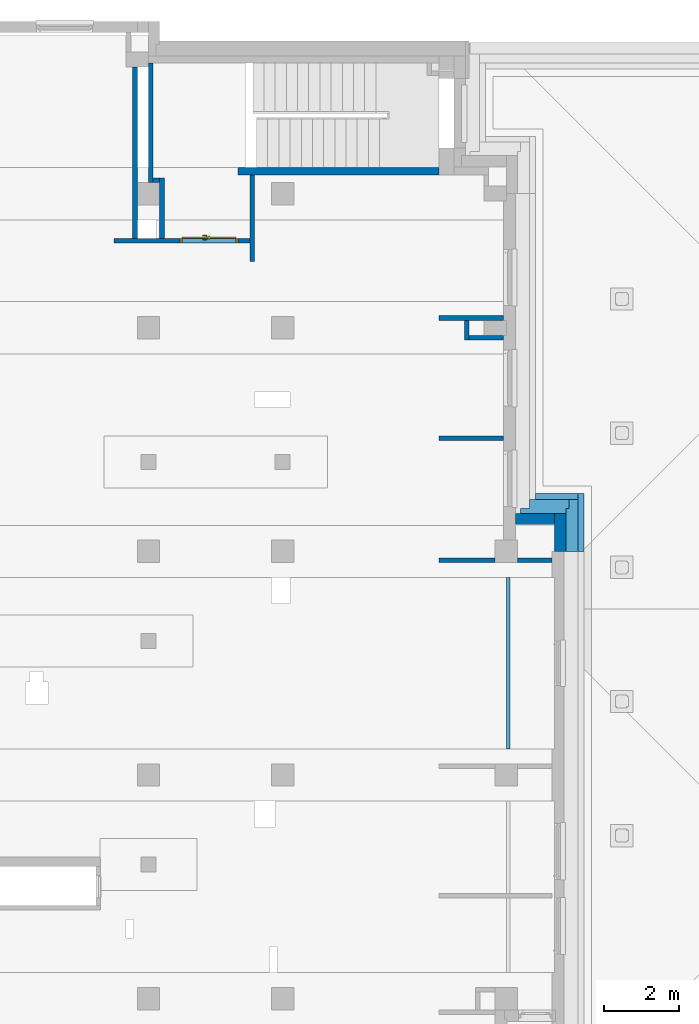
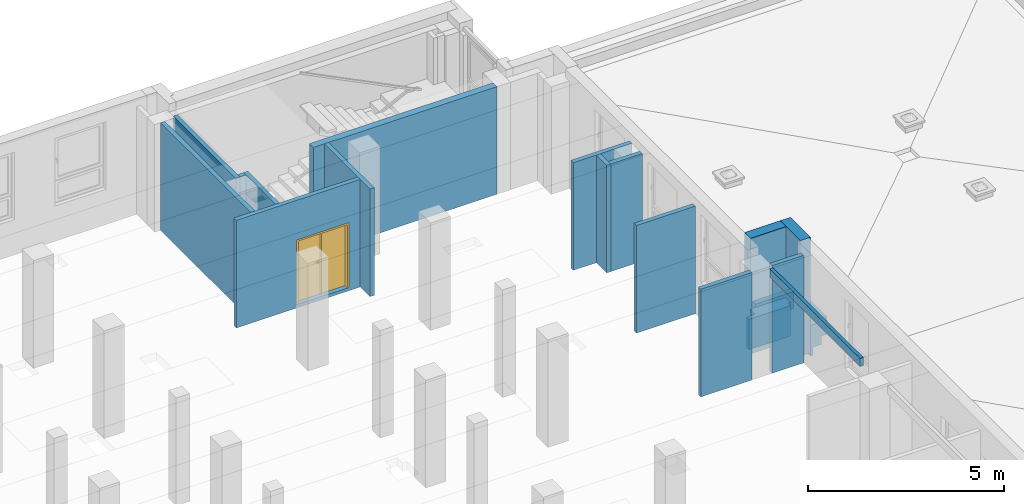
# One storey, part 28 of 50: 18 walls, 1 door, 1 opening.
"""IFC4 building model written with IfcOpenShell, lengths in metres."""

from ifc_helpers import new_model, entity, si_unit, converted_unit, derived_unit, frame, frame_2d, origin, origin_with_axes, place, context, subcontext, project, spatial, polyline, rectangle, outline, extrude, clip, bounded_halfspace, closed_shell, open_shell, surface_model, source, transform, mapped, material, layer, layer_set, layer_usage, type_object, element, fill, save


model = new_model("IFC4")

# Units and contexts
model_context = context("Model", 3, precision=1e-05, world=origin())
body_context = subcontext(model_context, "Body", "Model", "MODEL_VIEW")
ifc_project = project(units=[si_unit("LENGTHUNIT", "METRE"), si_unit("AREAUNIT", "SQUARE_METRE"), si_unit("VOLUMEUNIT", "CUBIC_METRE"), si_unit("MASSUNIT", "GRAM", prefix="KILO"), converted_unit("PLANEANGLEUNIT", "DEGREE", entity("IfcPlaneAngleMeasure", 0.0174532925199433), si_unit("PLANEANGLEUNIT", "RADIAN"), dimensions=[0, 0, 0, 0, 0, 0, 0]), derived_unit("THERMALTRANSMITTANCEUNIT", [(si_unit("POWERUNIT", "WATT"), 1), (si_unit("THERMODYNAMICTEMPERATUREUNIT", "KELVIN"), -1), (si_unit("LENGTHUNIT", "METRE"), -2)]), derived_unit("VOLUMETRICFLOWRATEUNIT", [(si_unit("LENGTHUNIT", "METRE"), 3), (converted_unit("TIMEUNIT", "hour", entity("IfcTimeMeasure", 3600.0), si_unit("TIMEUNIT", "SECOND"), dimensions=[0, 0, 1, 0, 0, 0, 0]), -1), (si_unit("LENGTHUNIT", "METRE"), -1)])], contexts=[model_context])

# Site, building, storey
site_placement = place(None, origin())
site = spatial("IfcSite", under=ifc_project, at=site_placement, Name="3. ASŘ", CompositionType="ELEMENT")
building_placement = place(site_placement, origin())
building = spatial("IfcBuilding", under=site, at=building_placement, Name="Pavilon C", CompositionType="ELEMENT")
storey_placement = place(building_placement, frame((0.0, 0.0, 3.6)))
storey = spatial("IfcBuildingStorey", under=building, at=storey_placement, Name="Půdorys 2.NP", CompositionType="ELEMENT", Elevation=3.6)

# Walls
ifc_material_1 = material(Name="ZELEZOBETONOVÁ KCE")
ifc_layer_1 = layer(ifc_material_1, 0.3)
ifc_layer_set_1 = layer_set([ifc_layer_1])
ifc_layer_usage_1 = layer_usage(ifc_layer_set_1, "AXIS2", "POSITIVE", 0.0)
wall_1_placement = place(storey_placement, frame((51.25, 20.22, -0.1), z_axis=(0.0, 0.0, 1.0), x_axis=(-1.0, 0.0, 0.0)))
element("IfcWall", 1, at=wall_1_placement, inside=storey, material=ifc_layer_usage_1, Name="ZELEZOBETONOVÁ KCE", context=body_context, shape_type="SweptSolid", body=[
    extrude(rectangle(XDim=1.05, YDim=0.3, at=frame_2d((0.525, 0.15), x_axis=(1.0, 0.0))), origin_with_axes(), (0.0, 0.0, 1.0), 3.6),
])
ifc_material_2 = material(Name="ZELEZOBETONOVÁ KCE")
ifc_layer_2 = layer(ifc_material_2, 0.2)
ifc_layer_set_2 = layer_set([ifc_layer_2])
ifc_layer_usage_2 = layer_usage(ifc_layer_set_2, "AXIS2", "POSITIVE", 0.0)
wall_2_placement = place(storey_placement, frame((48.15, 29.5, -0.1), z_axis=(0.0, 0.0, 1.0), x_axis=(-1.0, 0.0, 0.0)))
element("IfcWall", 2, at=wall_2_placement, inside=storey, material=ifc_layer_usage_2, Name="ZELEZOBETONOVÁ KCE", context=body_context, shape_type="SweptSolid", body=[
    extrude(rectangle(XDim=5.4, YDim=0.2, at=frame_2d((2.7, 0.1), x_axis=(1.0, 0.0))), origin_with_axes(), (0.0, 0.0, 1.0), 3.35),
])

# Wall, opening, door
ifc_material_3 = material(Name="ZDIVO Z CDm")
ifc_layer_3 = layer(ifc_material_3, 0.125)
ifc_layer_set_3 = layer_set([ifc_layer_3])
ifc_layer_usage_3 = layer_usage(ifc_layer_set_3, "AXIS2", "POSITIVE", 0.0)
wall_3_placement = place(storey_placement, frame((43.075, 27.6, -0.1), z_axis=(0.0, 0.0, 1.0), x_axis=(-1.0, 0.0, 0.0)))
wall_3 = element("IfcWall", 3, at=wall_3_placement, inside=storey, material=ifc_layer_usage_3, Name="ZDIVO Z CDm", context=body_context, shape_type="SweptSolid", body=[
    extrude(rectangle(XDim=3.65, YDim=0.125, at=frame_2d((1.825, 0.0625), x_axis=(1.0, 0.0))), origin_with_axes(), (0.0, 0.0, 1.0), 3.35),
])
opening_placement = place(wall_3_placement, frame((0.325, 0.0, 0.1), z_axis=(0.0, 1.0, 0.0), x_axis=(0.0, 0.0, 1.0)))
opening = element("IfcOpeningElement", 4, at=opening_placement, cuts=wall_3, Name="Dveřní otvor", ObjectType="Opening", context=body_context, shape_type="SweptSolid", body=[
    extrude(outline(polyline([(0.0, 1.55), (2.02, 1.55), (2.02, 0.0), (0.0, 0.0), (0.0, 1.55)])), origin_with_axes(), (0.0, 0.0, 1.0), 0.125),
])
door_type = type_object("IfcDoorType", Name="D501", OperationType="NOTDEFINED", ParameterTakesPrecedence=False, PredefinedType="DOOR")
shared_shape = source(origin_with_axes(), body_context, "Body", "SurfaceModel", [
    surface_model("IfcShellBasedSurfaceModel", [(0.0, 0.125, 2.02), (0.0, 0.125, -7.65404249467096e-18), (0.05, 0.125, -7.65404249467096e-18), (0.05, 0.125, 2.02), (0.0, 0.0, 7.65404249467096e-18), (0.0, 2.41584530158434e-16, 2.02), (0.05, 2.41584530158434e-16, 2.02), (0.05, 0.0, 7.65404249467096e-18)], [closed_shell([[[0, 1, 2, 3]], [[4, 5, 6, 7]], [[1, 0, 5, 4]], [[2, 1, 4, 7]], [[3, 2, 7, 6]], [[0, 3, 6, 5]]], orient=[[False], [False], [False], [False], [False], [False]])]),
    surface_model("IfcShellBasedSurfaceModel", [(1.5, 0.125, 2.02), (1.5, 0.125, -7.65404249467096e-18), (1.55, 0.125, -7.65404249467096e-18), (1.55, 0.125, 2.02), (1.5, 0.0, 7.65404249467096e-18), (1.5, 2.41584530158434e-16, 2.02), (1.55, 2.41584530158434e-16, 2.02), (1.55, 0.0, 7.65404249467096e-18)], [closed_shell([[[0, 1, 2, 3]], [[4, 5, 6, 7]], [[1, 0, 5, 4]], [[2, 1, 4, 7]], [[3, 2, 7, 6]], [[0, 3, 6, 5]]], orient=[[False], [False], [False], [False], [False], [False]])]),
    surface_model("IfcShellBasedSurfaceModel", [(0.05, 0.125, 2.02), (0.05, 0.125, 1.97), (1.5, 0.125, 1.97), (1.5, 0.125, 2.02), (0.05, 2.41584530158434e-16, 1.97), (0.05, 2.41584530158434e-16, 2.02), (1.5, 2.41584530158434e-16, 2.02), (1.5, 2.41584530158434e-16, 1.97)], [closed_shell([[[0, 1, 2, 3]], [[4, 5, 6, 7]], [[1, 0, 5, 4]], [[2, 1, 4, 7]], [[3, 2, 7, 6]], [[0, 3, 6, 5]]], orient=[[False], [False], [False], [False], [False], [False]])]),
    surface_model("IfcShellBasedSurfaceModel", [(0.05, 0.165, 1.97), (0.05, 0.165, -1.25526296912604e-17), (0.7745, 0.165, -1.25526296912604e-17), (0.7745, 0.165, 1.97), (0.05, 0.125, -7.65404249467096e-18), (0.05, 0.125, 1.97), (0.7745, 0.125, 1.97), (0.7745, 0.125, -7.65404249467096e-18)], [closed_shell([[[0, 1, 2, 3]], [[4, 5, 6, 7]], [[1, 0, 5, 4]], [[2, 1, 4, 7]], [[3, 2, 7, 6]], [[0, 3, 6, 5]]], orient=[[False], [False], [False], [False], [False], [False]])]),
    surface_model("IfcShellBasedSurfaceModel", [(0.7545, 0.165, 1.97), (0.7945, 0.165, 1.97), (0.7945, 0.165, -1.25526296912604e-17), (0.7545, 0.165, -1.25526296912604e-17), (0.7545, 0.185, -1.50019232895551e-17), (0.7945, 0.185, -1.50019232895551e-17), (0.7945, 0.185, 1.97), (0.7545, 0.185, 1.97)], [closed_shell([[[0, 1, 2, 3]], [[4, 5, 6, 7]], [[3, 4, 7, 0]], [[2, 5, 4, 3]], [[1, 6, 5, 2]], [[0, 7, 6, 1]]], orient=[[False], [False], [False], [False], [False], [False]])]),
    surface_model("IfcShellBasedSurfaceModel", [(0.733315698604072, 0.125, 0.93625), (0.737, 0.125, 0.95), (0.733315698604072, 0.125, 0.96375), (0.72325, 0.125, 0.973815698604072), (0.7095, 0.125, 0.9775), (0.69575, 0.125, 0.973815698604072), (0.685684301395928, 0.125, 0.96375), (0.682, 0.125, 0.95), (0.685684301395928, 0.125, 0.93625), (0.69575, 0.125, 0.926184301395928), (0.7095, 0.125, 0.9225), (0.72325, 0.125, 0.926184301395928), (0.737, 0.1125, 0.95), (0.733315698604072, 0.1125, 0.93625), (0.72325, 0.1125, 0.926184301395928), (0.7095, 0.1125, 0.9225), (0.69575, 0.1125, 0.926184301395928), (0.685684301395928, 0.1125, 0.93625), (0.682, 0.1125, 0.95), (0.685684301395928, 0.1125, 0.96375), (0.69575, 0.1125, 0.973815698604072), (0.7095, 0.1125, 0.9775), (0.72325, 0.1125, 0.973815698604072), (0.733315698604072, 0.1125, 0.96375)], [closed_shell([[[0, 1, 2, 3, 4, 5, 6, 7, 8, 9, 10, 11]], [[12, 13, 14, 15, 16, 17, 18, 19, 20, 21, 22, 23]], [[1, 0, 13, 12]], [[2, 1, 12, 23]], [[3, 2, 23, 22]], [[4, 3, 22, 21]], [[5, 4, 21, 20]], [[6, 5, 20, 19]], [[7, 6, 19, 18]], [[8, 7, 18, 17]], [[9, 8, 17, 16]], [[10, 9, 16, 15]], [[11, 10, 15, 14]], [[0, 11, 14, 13]]], orient=[[False], [False], [False], [False], [False], [False], [False], [False], [False], [False], [False], [False], [False], [False]])]),
    surface_model("IfcShellBasedSurfaceModel", [(0.733315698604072, 0.125, 1.03625), (0.737, 0.125, 1.05), (0.733315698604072, 0.125, 1.06375), (0.72325, 0.125, 1.07381569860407), (0.7095, 0.125, 1.0775), (0.69575, 0.125, 1.07381569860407), (0.685684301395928, 0.125, 1.06375), (0.682, 0.125, 1.05), (0.685684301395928, 0.125, 1.03625), (0.69575, 0.125, 1.02618430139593), (0.7095, 0.125, 1.0225), (0.72325, 0.125, 1.02618430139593), (0.737, 0.1125, 1.05), (0.733315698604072, 0.1125, 1.03625), (0.72325, 0.1125, 1.02618430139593), (0.7095, 0.1125, 1.0225), (0.69575, 0.1125, 1.02618430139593), (0.685684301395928, 0.1125, 1.03625), (0.682, 0.1125, 1.05), (0.685684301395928, 0.1125, 1.06375), (0.69575, 0.1125, 1.07381569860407), (0.7095, 0.1125, 1.0775), (0.72325, 0.1125, 1.07381569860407), (0.733315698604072, 0.1125, 1.06375)], [closed_shell([[[0, 1, 2, 3, 4, 5, 6, 7, 8, 9, 10, 11]], [[12, 13, 14, 15, 16, 17, 18, 19, 20, 21, 22, 23]], [[1, 0, 13, 12]], [[2, 1, 12, 23]], [[3, 2, 23, 22]], [[4, 3, 22, 21]], [[5, 4, 21, 20]], [[6, 5, 20, 19]], [[7, 6, 19, 18]], [[8, 7, 18, 17]], [[9, 8, 17, 16]], [[10, 9, 16, 15]], [[11, 10, 15, 14]], [[0, 11, 14, 13]]], orient=[[False], [False], [False], [False], [False], [False], [False], [False], [False], [False], [False], [False], [False], [False]])]),
    surface_model("IfcShellBasedSurfaceModel", [(0.7095, 0.125, 1.06), (0.7045, 0.125, 1.05866025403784), (0.700839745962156, 0.125, 1.055), (0.6995, 0.125, 1.05), (0.700839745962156, 0.125, 1.045), (0.7045, 0.125, 1.04133974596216), (0.7095, 0.125, 1.04), (0.7145, 0.125, 1.04133974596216), (0.718160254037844, 0.125, 1.045), (0.7195, 0.125, 1.05), (0.718160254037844, 0.125, 1.055), (0.7145, 0.125, 1.05866025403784), (0.7145, 0.0800000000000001, 1.05866025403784), (0.7095, 0.0850000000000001, 1.06), (0.718160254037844, 0.0763397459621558, 1.055), (0.7195, 0.0750000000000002, 1.05), (0.718160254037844, 0.0763397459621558, 1.045), (0.7145, 0.0800000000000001, 1.04133974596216), (0.7095, 0.0850000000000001, 1.04), (0.7045, 0.0900000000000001, 1.04133974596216), (0.700839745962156, 0.0936602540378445, 1.045), (0.6995, 0.0950000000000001, 1.05), (0.700839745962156, 0.0936602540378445, 1.055), (0.7045, 0.0900000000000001, 1.05866025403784), (0.5945, 0.0800000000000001, 1.05866025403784), (0.5945, 0.0850000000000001, 1.06), (0.5945, 0.0763397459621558, 1.055), (0.5945, 0.0750000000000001, 1.05), (0.5945, 0.0763397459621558, 1.045), (0.5945, 0.0800000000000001, 1.04133974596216), (0.5945, 0.0850000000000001, 1.04), (0.5945, 0.0900000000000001, 1.04133974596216), (0.5945, 0.0936602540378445, 1.045), (0.5945, 0.0950000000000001, 1.05), (0.5945, 0.0936602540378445, 1.055), (0.5945, 0.0900000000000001, 1.05866025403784)], [open_shell([[[0, 1, 2, 3, 4, 5, 6, 7, 8, 9, 10, 11]], [[0, 11, 12, 13]], [[11, 10, 14, 12]], [[10, 9, 15, 14]], [[9, 8, 16, 15]], [[8, 7, 17, 16]], [[7, 6, 18, 17]], [[6, 5, 19, 18]], [[5, 4, 20, 19]], [[4, 3, 21, 20]], [[3, 2, 22, 21]], [[2, 1, 23, 22]], [[1, 0, 13, 23]], [[13, 12, 24, 25]], [[12, 14, 26, 24]], [[14, 15, 27, 26]], [[15, 16, 28, 27]], [[16, 17, 29, 28]], [[17, 18, 30, 29]], [[18, 19, 31, 30]], [[19, 20, 32, 31]], [[20, 21, 33, 32]], [[21, 22, 34, 33]], [[22, 23, 35, 34]], [[23, 13, 25, 35]]], orient=[[False], [False], [False], [False], [False], [False], [False], [False], [False], [False], [False], [False], [False], [False], [False], [False], [False], [False], [False], [False], [False], [False], [False], [False], [False]])]),
    surface_model("IfcShellBasedSurfaceModel", [(0.733315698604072, 0.165, 0.93625), (0.72325, 0.165, 0.926184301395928), (0.7095, 0.165, 0.9225), (0.69575, 0.165, 0.926184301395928), (0.685684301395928, 0.165, 0.93625), (0.682, 0.165, 0.95), (0.685684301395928, 0.165, 0.96375), (0.69575, 0.165, 0.973815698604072), (0.7095, 0.165, 0.9775), (0.72325, 0.165, 0.973815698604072), (0.733315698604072, 0.165, 0.96375), (0.737, 0.165, 0.95), (0.737, 0.1775, 0.95), (0.733315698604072, 0.1775, 0.96375), (0.72325, 0.1775, 0.973815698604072), (0.7095, 0.1775, 0.9775), (0.69575, 0.1775, 0.973815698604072), (0.685684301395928, 0.1775, 0.96375), (0.682, 0.1775, 0.95), (0.685684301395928, 0.1775, 0.93625), (0.69575, 0.1775, 0.926184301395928), (0.7095, 0.1775, 0.9225), (0.72325, 0.1775, 0.926184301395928), (0.733315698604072, 0.1775, 0.93625)], [closed_shell([[[0, 1, 2, 3, 4, 5, 6, 7, 8, 9, 10, 11]], [[12, 13, 14, 15, 16, 17, 18, 19, 20, 21, 22, 23]], [[11, 12, 23, 0]], [[10, 13, 12, 11]], [[9, 14, 13, 10]], [[8, 15, 14, 9]], [[7, 16, 15, 8]], [[6, 17, 16, 7]], [[5, 18, 17, 6]], [[4, 19, 18, 5]], [[3, 20, 19, 4]], [[2, 21, 20, 3]], [[1, 22, 21, 2]], [[0, 23, 22, 1]]], orient=[[False], [False], [False], [False], [False], [False], [False], [False], [False], [False], [False], [False], [False], [False]])]),
    surface_model("IfcShellBasedSurfaceModel", [(0.733315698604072, 0.165, 1.03625), (0.72325, 0.165, 1.02618430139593), (0.7095, 0.165, 1.0225), (0.69575, 0.165, 1.02618430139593), (0.685684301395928, 0.165, 1.03625), (0.682, 0.165, 1.05), (0.685684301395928, 0.165, 1.06375), (0.69575, 0.165, 1.07381569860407), (0.7095, 0.165, 1.0775), (0.72325, 0.165, 1.07381569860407), (0.733315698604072, 0.165, 1.06375), (0.737, 0.165, 1.05), (0.737, 0.1775, 1.05), (0.733315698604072, 0.1775, 1.06375), (0.72325, 0.1775, 1.07381569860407), (0.7095, 0.1775, 1.0775), (0.69575, 0.1775, 1.07381569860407), (0.685684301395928, 0.1775, 1.06375), (0.682, 0.1775, 1.05), (0.685684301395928, 0.1775, 1.03625), (0.69575, 0.1775, 1.02618430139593), (0.7095, 0.1775, 1.0225), (0.72325, 0.1775, 1.02618430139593), (0.733315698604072, 0.1775, 1.03625)], [closed_shell([[[0, 1, 2, 3, 4, 5, 6, 7, 8, 9, 10, 11]], [[12, 13, 14, 15, 16, 17, 18, 19, 20, 21, 22, 23]], [[11, 12, 23, 0]], [[10, 13, 12, 11]], [[9, 14, 13, 10]], [[8, 15, 14, 9]], [[7, 16, 15, 8]], [[6, 17, 16, 7]], [[5, 18, 17, 6]], [[4, 19, 18, 5]], [[3, 20, 19, 4]], [[2, 21, 20, 3]], [[1, 22, 21, 2]], [[0, 23, 22, 1]]], orient=[[False], [False], [False], [False], [False], [False], [False], [False], [False], [False], [False], [False], [False], [False]])]),
    surface_model("IfcShellBasedSurfaceModel", [(0.7095, 0.165, 1.06), (0.7145, 0.165, 1.05866025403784), (0.718160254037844, 0.165, 1.055), (0.7195, 0.165, 1.05), (0.718160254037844, 0.165, 1.045), (0.7145, 0.165, 1.04133974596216), (0.7095, 0.165, 1.04), (0.7045, 0.165, 1.04133974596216), (0.700839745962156, 0.165, 1.045), (0.6995, 0.165, 1.05), (0.700839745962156, 0.165, 1.055), (0.7045, 0.165, 1.05866025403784), (0.7095, 0.205, 1.06), (0.7145, 0.21, 1.05866025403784), (0.718160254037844, 0.213660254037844, 1.055), (0.7195, 0.215, 1.05), (0.718160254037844, 0.213660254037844, 1.045), (0.7145, 0.21, 1.04133974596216), (0.7095, 0.205, 1.04), (0.7045, 0.2, 1.04133974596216), (0.700839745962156, 0.196339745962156, 1.045), (0.6995, 0.195, 1.05), (0.700839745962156, 0.196339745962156, 1.055), (0.7045, 0.2, 1.05866025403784), (0.5945, 0.205, 1.06), (0.5945, 0.21, 1.05866025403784), (0.5945, 0.213660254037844, 1.055), (0.5945, 0.215, 1.05), (0.5945, 0.213660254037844, 1.045), (0.5945, 0.21, 1.04133974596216), (0.5945, 0.205, 1.04), (0.5945, 0.2, 1.04133974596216), (0.5945, 0.196339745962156, 1.045), (0.5945, 0.195, 1.05), (0.5945, 0.196339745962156, 1.055), (0.5945, 0.2, 1.05866025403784)], [open_shell([[[0, 1, 2, 3, 4, 5, 6, 7, 8, 9, 10, 11]], [[0, 12, 13, 1]], [[1, 13, 14, 2]], [[2, 14, 15, 3]], [[3, 15, 16, 4]], [[4, 16, 17, 5]], [[5, 17, 18, 6]], [[6, 18, 19, 7]], [[7, 19, 20, 8]], [[8, 20, 21, 9]], [[9, 21, 22, 10]], [[10, 22, 23, 11]], [[11, 23, 12, 0]], [[12, 24, 25, 13]], [[13, 25, 26, 14]], [[14, 26, 27, 15]], [[15, 27, 28, 16]], [[16, 28, 29, 17]], [[17, 29, 30, 18]], [[18, 30, 31, 19]], [[19, 31, 32, 20]], [[20, 32, 33, 21]], [[21, 33, 34, 22]], [[22, 34, 35, 23]], [[23, 35, 24, 12]]], orient=[[False], [False], [False], [False], [False], [False], [False], [False], [False], [False], [False], [False], [False], [False], [False], [False], [False], [False], [False], [False], [False], [False], [False], [False], [False]])]),
    surface_model("IfcShellBasedSurfaceModel", [(0.7755, 0.165, 1.97), (0.7755, 0.165, -1.25526296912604e-17), (1.5, 0.165, -1.25526296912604e-17), (1.5, 0.165, 1.97), (0.7755, 0.125, -7.65404249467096e-18), (0.7755, 0.125, 1.97), (1.5, 0.125, 1.97), (1.5, 0.125, -7.65404249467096e-18)], [closed_shell([[[0, 1, 2, 3]], [[4, 5, 6, 7]], [[1, 0, 5, 4]], [[2, 1, 4, 7]], [[3, 2, 7, 6]], [[0, 3, 6, 5]]], orient=[[False], [False], [False], [False], [False], [False]])]),
    surface_model("IfcShellBasedSurfaceModel", [(0.7555, 0.125, 1.97), (0.7555, 0.125, -7.65404249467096e-18), (0.7955, 0.125, -7.65404249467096e-18), (0.7955, 0.125, 1.97), (0.7555, 0.105, -5.20474889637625e-18), (0.7555, 0.105, 1.97), (0.7955, 0.105, 1.97), (0.7955, 0.105, -5.20474889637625e-18)], [closed_shell([[[0, 1, 2, 3]], [[4, 5, 6, 7]], [[1, 0, 5, 4]], [[2, 1, 4, 7]], [[3, 2, 7, 6]], [[0, 3, 6, 5]]], orient=[[False], [False], [False], [False], [False], [False]])]),
])
door_placement = place(opening_placement, frame((0.0, 1.55, 0.125), z_axis=(1.0, 0.0, 0.0), x_axis=(0.0, -1.0, 2.44929359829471e-16)))
door = element("IfcDoor", 5, at=door_placement, inside=storey, type_object=door_type, Name="D501", OverallHeight=2.02, OverallWidth=1.55, context=body_context, shape_type="MappedRepresentation", body=[
    mapped(shared_shape, transform((0.0, 0.0, 0.0), x_axis=(1.0, 0.0, 0.0), y_axis=(0.0, 1.0, 0.0), z_axis=(0.0, 0.0, 1.0), scale=1.0)),
])
fill(opening, door)

# Walls
ifc_material_4 = material(Name="ZDIVO Z CDm")
ifc_layer_4 = layer(ifc_material_4, 0.125)
ifc_layer_set_4 = layer_set([ifc_layer_4])
ifc_layer_usage_4 = layer_usage(ifc_layer_set_4, "AXIS2", "POSITIVE", 0.0)
wall_4_placement = place(storey_placement, frame((40.475, 29.1, -0.1)))
element("IfcWall", 6, at=wall_4_placement, inside=storey, material=ifc_layer_usage_4, Name="ZDIVO Z CDm", context=body_context, shape_type="SweptSolid", body=[
    extrude(rectangle(XDim=0.175, YDim=0.125, at=frame_2d((0.0875, 0.0625), x_axis=(1.0, 0.0))), origin_with_axes(), (0.0, 0.0, 1.0), 3.35),
])
ifc_material_5 = material(Name="ZDIVO Z CDm")
ifc_layer_5 = layer(ifc_material_5, 0.125)
ifc_layer_set_5 = layer_set([ifc_layer_5])
ifc_layer_usage_5 = layer_usage(ifc_layer_set_5, "AXIS2", "POSITIVE", 0.0)
wall_5_placement = place(storey_placement, frame((40.05, 27.6, -0.1), z_axis=(0.0, 0.0, 1.0), x_axis=(0.0, 1.0, 0.0)))
element("IfcWall", 7, at=wall_5_placement, inside=storey, material=ifc_layer_usage_5, Name="ZDIVO Z CDm", context=body_context, shape_type="SweptSolid", body=[
    extrude(rectangle(XDim=4.6, YDim=0.125, at=frame_2d((2.3, 0.0625), x_axis=(1.0, 0.0))), origin_with_axes(), (0.0, 0.0, 1.0), 3.35),
])
ifc_material_6 = material(Name="ZDIVO Z CDm")
ifc_layer_6 = layer(ifc_material_6, 0.125)
ifc_layer_set_6 = layer_set([ifc_layer_6])
ifc_layer_usage_6 = layer_usage(ifc_layer_set_6, "AXIS2", "POSITIVE", 0.0)
wall_6_placement = place(storey_placement, frame((40.65, 29.225, -0.1), z_axis=(0.0, 0.0, 1.0), x_axis=(0.0, -1.0, 0.0)))
element("IfcWall", 8, at=wall_6_placement, inside=storey, material=ifc_layer_usage_6, Name="ZDIVO Z CDm", context=body_context, shape_type="SweptSolid", body=[
    extrude(rectangle(XDim=1.62500000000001, YDim=0.125, at=frame_2d((0.812500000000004, 0.0625), x_axis=(1.0, 0.0))), origin_with_axes(), (0.0, 0.0, 1.0), 3.35),
])
ifc_material_7 = material(Name="ZDIVO Z CDm")
ifc_layer_7 = layer(ifc_material_7, 0.125)
ifc_layer_set_7 = layer_set([ifc_layer_7])
ifc_layer_usage_7 = layer_usage(ifc_layer_set_7, "AXIS2", "POSITIVE", 0.0)
wall_7_placement = place(storey_placement, frame((40.35, 32.3, -0.1), z_axis=(0.0, 0.0, 1.0), x_axis=(0.0, -1.0, 0.0)))
element("IfcWall", 9, at=wall_7_placement, inside=storey, material=ifc_layer_usage_7, Name="ZDIVO Z CDm", context=body_context, shape_type="SweptSolid", body=[
    extrude(rectangle(XDim=3.19999999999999, YDim=0.125, at=frame_2d((1.6, 0.0625), x_axis=(1.0, 0.0))), origin_with_axes(), (0.0, 0.0, 1.0), 3.35),
])
ifc_material_8 = material(Name="ZDIVO Z CDm")
ifc_layer_8 = layer(ifc_material_8, 0.125)
ifc_layer_set_8 = layer_set([ifc_layer_8])
ifc_layer_usage_8 = layer_usage(ifc_layer_set_8, "AXIS2", "POSITIVE", 0.0)
wall_8_placement = place(storey_placement, frame((43.075, 29.3, -0.1), z_axis=(0.0, 0.0, 1.0), x_axis=(0.0, -1.0, 0.0)))
element("IfcWall", 10, at=wall_8_placement, inside=storey, material=ifc_layer_usage_8, Name="ZDIVO Z CDm", context=body_context, shape_type="SweptSolid", body=[
    extrude(rectangle(XDim=2.325, YDim=0.125, at=frame_2d((1.1625, 0.0625), x_axis=(1.0, 0.0))), origin_with_axes(), (0.0, 0.0, 1.0), 3.35),
])
ifc_material_9 = material(Name="ZELEZOBETONOVÁ KCE")
ifc_layer_9 = layer(ifc_material_9, 0.3)
ifc_layer_set_9 = layer_set([ifc_layer_9])
ifc_layer_usage_9 = layer_usage(ifc_layer_set_9, "AXIS2", "POSITIVE", 0.0)
wall_9_placement = place(storey_placement, frame((51.55, 19.2, -0.1), z_axis=(0.0, 0.0, 1.0), x_axis=(0.0, 1.0, 0.0)))
element("IfcWall", 11, at=wall_9_placement, inside=storey, material=ifc_layer_usage_9, Name="ZELEZOBETONOVÁ KCE", context=body_context, shape_type="SweptSolid", body=[
    extrude(rectangle(XDim=1.02, YDim=0.3, at=frame_2d((0.509999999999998, 0.15), x_axis=(1.0, 0.0))), origin_with_axes(), (0.0, 0.0, 1.0), 3.6),
])
ifc_material_10 = material(Name="ZDIVO Z CDm")
ifc_layer_10 = layer(ifc_material_10, 0.125)
ifc_layer_set_10 = layer_set([ifc_layer_10])
ifc_layer_usage_10 = layer_usage(ifc_layer_set_10, "AXIS2", "POSITIVE", 0.0)
wall_10_placement = place(storey_placement, frame((48.15, 18.9, -0.1)))
element("IfcWall", 12, at=wall_10_placement, inside=storey, material=ifc_layer_usage_10, Name="ZDIVO Z CDm", context=body_context, shape_type="SweptSolid", body=[
    extrude(rectangle(XDim=1.5, YDim=0.125, at=frame_2d((0.75, 0.0625), x_axis=(1.0, 0.0))), origin_with_axes(), (0.0, 0.0, 1.0), 3.35),
])
ifc_material_11 = material(Name="ZDIVO Z CDm")
ifc_layer_11 = layer(ifc_material_11, 0.125)
ifc_layer_set_11 = layer_set([ifc_layer_11])
ifc_layer_usage_11 = layer_usage(ifc_layer_set_11, "AXIS2", "POSITIVE", 0.0)
wall_11_placement = place(storey_placement, frame((50.25, 18.9, -0.1)))
element("IfcWall", 13, at=wall_11_placement, inside=storey, material=ifc_layer_usage_11, Name="ZDIVO Z CDm", context=body_context, shape_type="SweptSolid", body=[
    extrude(rectangle(XDim=0.93, YDim=0.125, at=frame_2d((0.465, 0.0625), x_axis=(1.0, 0.0))), origin_with_axes(), (0.0, 0.0, 1.0), 3.35),
])
ifc_material_12 = material(Name="ZDIVO Z CDm")
ifc_layer_12 = layer(ifc_material_12, 0.125)
ifc_layer_set_12 = layer_set([ifc_layer_12])
ifc_layer_usage_12 = layer_usage(ifc_layer_set_12, "AXIS2", "POSITIVE", 0.0)
wall_12_placement = place(storey_placement, frame((48.15, 25.4, -0.1)))
element("IfcWall", 14, at=wall_12_placement, inside=storey, material=ifc_layer_usage_12, Name="ZDIVO Z CDm", context=body_context, shape_type="SweptSolid", body=[
    extrude(rectangle(XDim=1.73, YDim=0.125, at=frame_2d((0.865, 0.0625), x_axis=(1.0, 0.0))), origin_with_axes(), (0.0, 0.0, 1.0), 3.35),
])
ifc_material_13 = material(Name="ZDIVO Z CDm")
ifc_layer_13 = layer(ifc_material_13, 0.125)
ifc_layer_set_13 = layer_set([ifc_layer_13])
ifc_layer_usage_13 = layer_usage(ifc_layer_set_13, "AXIS2", "POSITIVE", 0.0)
wall_13_placement = place(storey_placement, frame((48.95, 24.875, -0.1), z_axis=(0.0, 0.0, 1.0), x_axis=(0.0, 1.0, 0.0)))
element("IfcWall", 15, at=wall_13_placement, inside=storey, material=ifc_layer_usage_13, Name="ZDIVO Z CDm", context=body_context, shape_type="SweptSolid", body=[
    extrude(rectangle(XDim=0.525, YDim=0.125, at=frame_2d((0.2625, 0.0625), x_axis=(1.0, 0.0))), origin_with_axes(), (0.0, 0.0, 1.0), 3.35),
])
ifc_material_14 = material(Name="ZDIVO Z CDm")
ifc_layer_14 = layer(ifc_material_14, 0.125)
ifc_layer_set_14 = layer_set([ifc_layer_14])
ifc_layer_usage_14 = layer_usage(ifc_layer_set_14, "AXIS2", "POSITIVE", 0.0)
wall_14_placement = place(storey_placement, frame((49.88, 25.0, -0.1), z_axis=(0.0, 0.0, 1.0), x_axis=(-1.0, 0.0, 0.0)))
element("IfcWall", 16, at=wall_14_placement, inside=storey, material=ifc_layer_usage_14, Name="ZDIVO Z CDm", context=body_context, shape_type="SweptSolid", body=[
    extrude(rectangle(XDim=0.93, YDim=0.125, at=frame_2d((0.465, 0.0625), x_axis=(1.0, 0.0))), origin_with_axes(), (0.0, 0.0, 1.0), 3.35),
])
ifc_material_15 = material(Name="ZDIVO Z CDm")
ifc_layer_15 = layer(ifc_material_15, 0.125)
ifc_layer_set_15 = layer_set([ifc_layer_15])
ifc_layer_usage_15 = layer_usage(ifc_layer_set_15, "AXIS2", "POSITIVE", 0.0)
wall_15_placement = place(storey_placement, frame((48.15, 22.175, -0.1)))
element("IfcWall", 17, at=wall_15_placement, inside=storey, material=ifc_layer_usage_15, Name="ZDIVO Z CDm", context=body_context, shape_type="SweptSolid", body=[
    extrude(rectangle(XDim=1.73, YDim=0.125, at=frame_2d((0.865, 0.0625), x_axis=(1.0, 0.0))), origin_with_axes(), (0.0, 0.0, 1.0), 3.35),
])
ifc_material_16 = material(Name="EPS")
ifc_layer_16 = layer(ifc_material_16, 0.1)
ifc_layer_set_16 = layer_set([ifc_layer_16])
ifc_layer_usage_16 = layer_usage(ifc_layer_set_16, "AXIS2", "POSITIVE", 0.0)
wall_16_placement = place(storey_placement, frame((49.95, 18.5, 3.25), z_axis=(0.0, 0.0, 1.0), x_axis=(0.0, -1.0, 0.0)))
element("IfcWall", 18, at=wall_16_placement, inside=storey, material=ifc_layer_usage_16, Name="EPS", context=body_context, shape_type="SweptSolid", body=[
    extrude(rectangle(XDim=4.6, YDim=0.1, at=frame_2d((2.3, 0.05), x_axis=(1.0, 0.0))), origin_with_axes(), (0.0, 0.0, 1.0), 0.25),
])
ifc_material_17 = material(Name="EPS")
ifc_layer_17 = layer(ifc_material_17, 0.13)
ifc_material_18 = material(Name="ZELEZOBETONOVÁ KCE")
ifc_layer_18 = layer(ifc_material_18, 0.25)
ifc_material_19 = material(Name="MINERÁLNÍ VATA")
ifc_layer_19 = layer(ifc_material_19, 0.16)
ifc_layer_set_17 = layer_set([ifc_layer_17, ifc_layer_18, ifc_layer_19])
ifc_layer_usage_17 = layer_usage(ifc_layer_set_17, "AXIS2", "POSITIVE", -0.13)
wall_17_placement = place(storey_placement, frame((50.33, 20.22, -0.2)))
element("IfcWall", 19, at=wall_17_placement, inside=storey, material=ifc_layer_usage_17, Name="MINERÁLNÍ VATA", context=body_context, shape_type="Clipping", body=[
    clip(clip(clip(extrude(outline(polyline([(0.0, 0.0), (1.22, 0.0), (1.22, 0.13), (1.3, 0.13), (1.3, 0.38), (1.55, 0.38), (1.55, 0.54), (0.41, 0.54), (0.41, 0.38), (0.25, 0.38), (0.25, 0.13), (0.0, 0.13), (0.0, 0.0)])), origin_with_axes(), (0.0, 0.0, 1.0), 1.05), bounded_halfspace(frame((0.864, 0.23, 0.25), z_axis=(0.0, 0.0, 1.0), x_axis=(0.0, -1.0, 0.0)), True, origin_with_axes(), polyline([(0.25, 0.38), (0.25, 0.13), (1.21999999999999, 0.13), (1.3, 0.13), (1.3, 0.38), (0.25, 0.38)]))), bounded_halfspace(frame((1.044, 0.444, 0.510000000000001), z_axis=(0.0, 0.0, 1.0), x_axis=(0.0, -1.0, 0.0)), True, origin_with_axes(), polyline([(0.41, 0.54), (0.41, 0.38), (1.3, 0.38), (1.55, 0.38), (1.55, 0.54), (0.41, 0.54)]))), bounded_halfspace(frame((0.661111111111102, 0.184444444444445, 0.95), z_axis=(0.0, 0.0, -1.0), x_axis=(1.0, 0.0, 0.0)), True, origin_with_axes(), polyline([(-7.27595761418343e-15, 0.0), (1.21999999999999, 0.0), (1.21999999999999, 0.13), (1.3, 0.13), (1.3, 0.38), (0.41, 0.38), (0.25, 0.38), (0.25, 0.13), (-7.27595761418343e-15, 0.13), (-7.27595761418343e-15, 0.0)]))),
])
ifc_material_20 = material(Name="EPS")
ifc_layer_20 = layer(ifc_material_20, 0.08)
ifc_material_21 = material(Name="ZELEZOBETONOVÁ KCE")
ifc_layer_21 = layer(ifc_material_21, 0.25)
ifc_material_22 = material(Name="MINERÁLNÍ VATA")
ifc_layer_22 = layer(ifc_material_22, 0.16)
ifc_layer_set_18 = layer_set([ifc_layer_20, ifc_layer_21, ifc_layer_22])
ifc_layer_usage_18 = layer_usage(ifc_layer_set_18, "AXIS2", "POSITIVE", -0.08)
wall_18_placement = place(storey_placement, frame((51.55, 20.35, -0.2), z_axis=(0.0, 0.0, 1.0), x_axis=(0.0, -1.0, 0.0)))
element("IfcWall", 20, at=wall_18_placement, inside=storey, material=ifc_layer_usage_18, Name="MINERÁLNÍ VATA", context=body_context, shape_type="Clipping", body=[
    clip(clip(clip(extrude(outline(polyline([(-1.56, 0.49), (-1.56, 0.33), (-1.4, 0.33), (-1.4, 0.08), (-1.15, 0.08), (-1.15, 0.0), (0.0, 0.0), (0.0, 0.49), (-1.56, 0.49)])), frame((1.15, 0.0, 0.0), z_axis=(0.0, 0.0, 1.0), x_axis=(1.0, 0.0, 0.0)), (0.0, 0.0, 1.0), 1.05), bounded_halfspace(frame((0.359999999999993, 0.180000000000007, 0.25), z_axis=(0.0, 0.0, 1.0), x_axis=(0.0, -1.0, 0.0)), True, origin_with_axes(), polyline([(-0.25, 0.330000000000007), (-0.25, 0.0800000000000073), (0.0, 0.08), (1.15, 0.08), (1.15, 0.330000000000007), (-0.25, 0.330000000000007)]))), bounded_halfspace(frame((0.245999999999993, 0.394000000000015, 0.510000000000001), z_axis=(0.0, 0.0, 1.0), x_axis=(0.0, -1.0, 0.0)), True, origin_with_axes(), polyline([(-0.41, 0.490000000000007), (-0.41, 0.330000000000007), (-0.25, 0.330000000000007), (1.15, 0.330000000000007), (1.15, 0.490000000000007), (-0.41, 0.490000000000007)]))), bounded_halfspace(frame((0.3, 0.136666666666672, 0.95), z_axis=(0.0, 0.0, -1.0), x_axis=(1.0, 0.0, 0.0)), True, origin_with_axes(), polyline([(0.0, 0.0), (1.15, 0.0), (1.15, 0.330000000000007), (-0.25, 0.330000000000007), (-0.25, 0.0800000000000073), (0.0, 0.08), (0.0, 0.0)]))),
])

save(model, "model.ifc")
